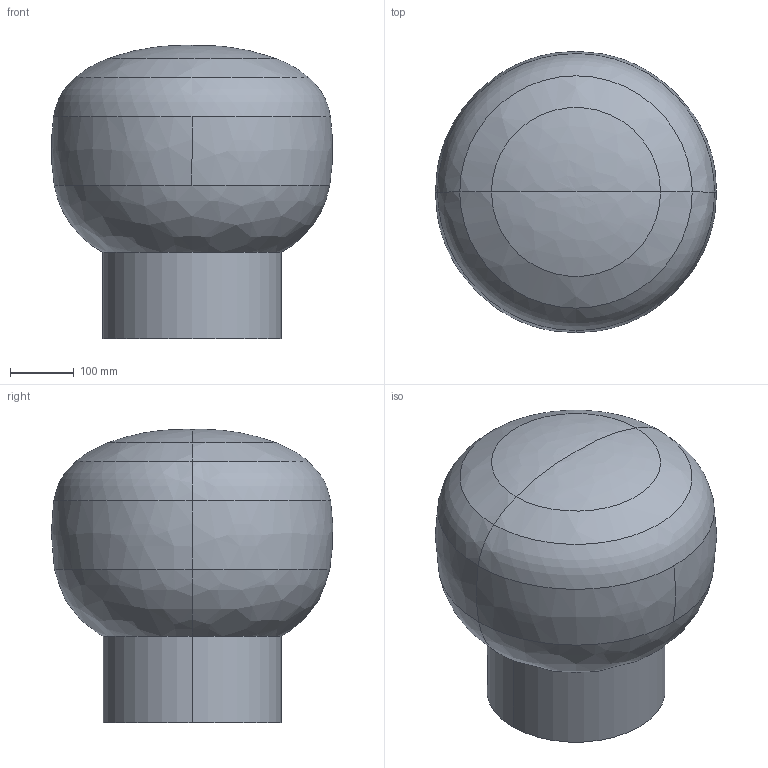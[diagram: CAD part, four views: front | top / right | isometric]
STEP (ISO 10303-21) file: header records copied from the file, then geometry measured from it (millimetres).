
FILE_DESCRIPTION(/* description */ (''),/* implementation_level */ '2;1');
FILE_NAME(/* name */ 'Liege-Pouf_NORR11',/* time_stamp */ '2024-09-06T14:31:45+02:00',/* author */ (''),/* organization */ (''),/* preprocessor_version */ 'ST-DEVELOPER v19.2',/* originating_system */ 'Rhino 8.9',/* authorisation */ '');
FILE_SCHEMA (('CONFIG_CONTROL_DESIGN'));
Length unit declared in the file: millimetre
Products named in the file (1): Document
Bounding box: 441.99 x 442.3 x 460.98 mm (x, y, z)
Volume: 48196229.5 mm3; surface area: 820033.3 mm2
Topology: 2 solids, 2 shells, 17 faces, 32 edges, 17 vertices
Faces by surface type: bspline 11, plane 4, cylinder 2
Entity records: 1717 total; most frequent: CARTESIAN_POINT 1349, ORIENTED_EDGE 60, DIRECTION 44, EDGE_CURVE 30, AXIS2_PLACEMENT_3D 25, ADVANCED_FACE 17, FACE_OUTER_BOUND 17, EDGE_LOOP 17
